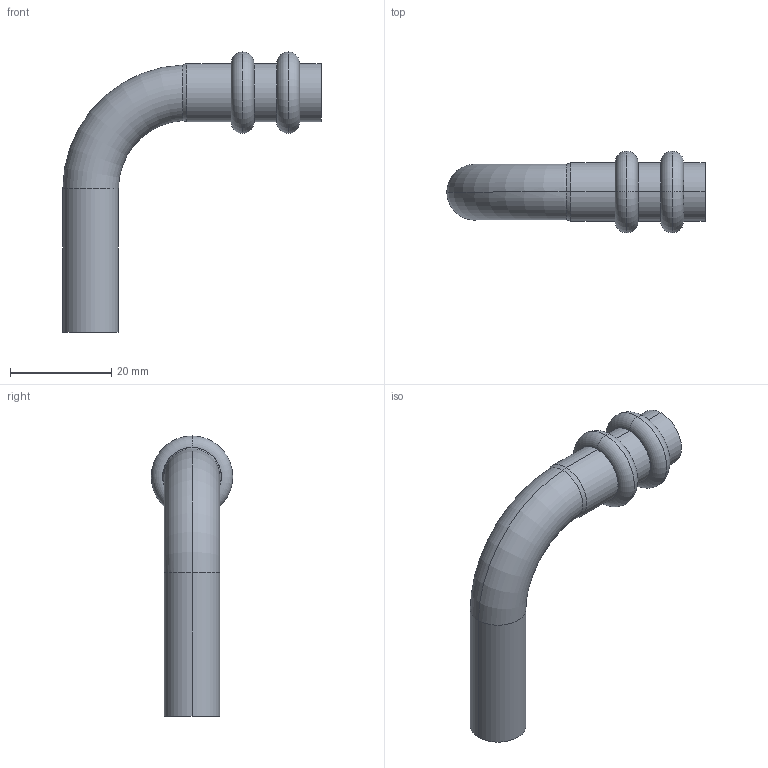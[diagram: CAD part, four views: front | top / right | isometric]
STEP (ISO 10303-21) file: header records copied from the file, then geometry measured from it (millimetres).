
FILE_DESCRIPTION(('starvars output'),'1');
FILE_NAME('cv20240422104955000011828.stp','10:49:57 2024/04/22',('Thomas Industrial Network Germany GmbH'),(' '),'Spatial InterOp 3D',' ',' ');
FILE_SCHEMA(('AUTOMOTIVE_DESIGN { 1 0 10303 214 3 1 1 }'));
Length unit declared in the file: millimetre
Products named in the file (1): 1
Bounding box: 50.98 x 16.1 x 55.3 mm (x, y, z)
Volume: 2225.9 mm3; surface area: 6246.5 mm2
Topology: 1 solids, 1 shells, 52 faces, 109 edges, 68 vertices
Faces by surface type: torus 20, cylinder 16, plane 12, cone 4
Entity records: 2102 total; most frequent: CARTESIAN_POINT 482, DIRECTION 288, ORIENTED_EDGE 218, AXIS2_PLACEMENT_3D 134, EDGE_CURVE 109, CIRCLE 81, VERTEX_POINT 68, EDGE_LOOP 63
